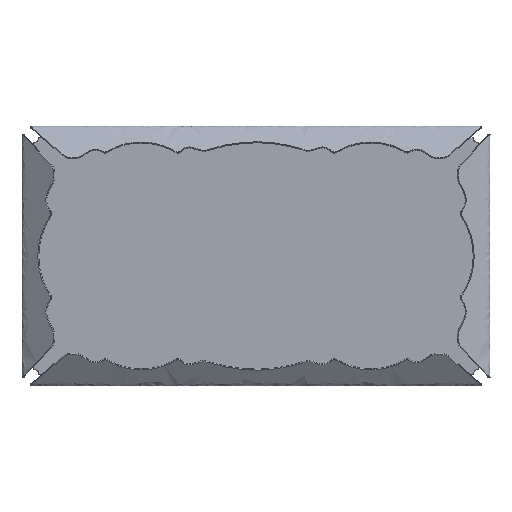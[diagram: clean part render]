
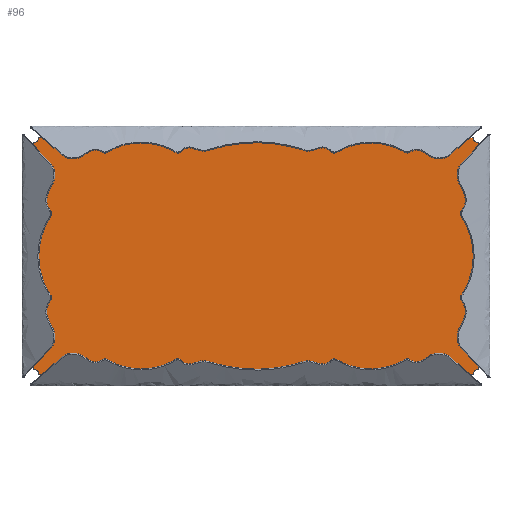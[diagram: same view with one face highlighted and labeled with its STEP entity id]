
A CAD part, top view. The second image highlights one B-rep face of the part: STEP entity #96.
In plain terms, the highlighted planar face has unit normal (0, 0, 1).
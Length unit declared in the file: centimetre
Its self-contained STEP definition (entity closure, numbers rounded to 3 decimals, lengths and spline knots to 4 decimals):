
#96=ADVANCED_FACE($,(#192),#1207,.T.);
#192=FACE_OUTER_BOUND($,#288,.T.);
#288=EDGE_LOOP($,(#456,#457));
#456=ORIENTED_EDGE($,*,*,#848,.T.);
#457=ORIENTED_EDGE($,*,*,#851,.T.);
#848=EDGE_CURVE($,#1053,#1055,#1225,.T.);
#851=EDGE_CURVE($,#1055,#1053,#1227,.T.);
#1053=VERTEX_POINT($,#1963);
#1055=VERTEX_POINT($,#1965);
#1207=PLANE($,#1531);
#1225=(
BOUNDED_CURVE()
B_SPLINE_CURVE(2,(#1839,#1840,#1841,#1842,#1843,#1844,#1845,#1846,#1847,
#1848,#1849,#1850,#1851,#1852,#1853,#1854,#1855),.UNSPECIFIED.,.F.,.F.)
B_SPLINE_CURVE_WITH_KNOTS((3,2,2,2,2,2,2,2,3),(231.1425,231.4367,
309.4567,309.7508,312.2177,312.5118,462.5318,
462.826,465.2928),.UNSPECIFIED.)
CURVE()
GEOMETRIC_REPRESENTATION_ITEM()
RATIONAL_B_SPLINE_CURVE((1.,0.742,1.,1.,1.,0.742,
1.,0.774,1.,0.742,1.,1.,1.,0.742,1.,
0.774,1.))
REPRESENTATION_ITEM($)
);
#1227=(
BOUNDED_CURVE()
B_SPLINE_CURVE(2,(#1875,#1876,#1877,#1878,#1879,#1880,#1881,#1882,#1883,
#1884,#1885,#1886,#1887,#1888,#1889,#1890,#1891),.UNSPECIFIED.,.F.,.F.)
B_SPLINE_CURVE_WITH_KNOTS((3,2,2,2,2,2,2,2,3),(465.2928,465.5869,
543.607,543.9011,546.3679,546.6621,696.6821,
696.9762,699.4431),.UNSPECIFIED.)
CURVE()
GEOMETRIC_REPRESENTATION_ITEM()
RATIONAL_B_SPLINE_CURVE((1.,0.742,1.,1.,1.,0.742,
1.,0.774,1.,0.742,1.,1.,1.,0.742,1.,
0.774,1.))
REPRESENTATION_ITEM($)
);
#1531=AXIS2_PLACEMENT_3D($,#1927,#1548,$);
#1548=DIRECTION($,(0.,0.,1.));
#1839=CARTESIAN_POINT($,(0.18,80.209,1.1));
#1840=CARTESIAN_POINT($,(0.,80.1909,1.1));
#1841=CARTESIAN_POINT($,(0.,80.01,1.1));
#1842=CARTESIAN_POINT($,(0.,41.,1.1));
#1843=CARTESIAN_POINT($,(0.,1.99,1.1));
#1844=CARTESIAN_POINT($,(0.,1.8091,1.1));
#1845=CARTESIAN_POINT($,(0.18,1.791,1.1));
#1846=CARTESIAN_POINT($,(1.6439,1.6439,1.1));
#1847=CARTESIAN_POINT($,(1.791,0.18,1.1));
#1848=CARTESIAN_POINT($,(1.8091,0.,1.1));
#1849=CARTESIAN_POINT($,(1.99,0.,1.1));
#1850=CARTESIAN_POINT($,(77.,0.,1.1));
#1851=CARTESIAN_POINT($,(152.01,0.,1.1));
#1852=CARTESIAN_POINT($,(152.1909,0.,1.1));
#1853=CARTESIAN_POINT($,(152.209,0.18,1.1));
#1854=CARTESIAN_POINT($,(152.3561,1.6439,1.1));
#1855=CARTESIAN_POINT($,(153.82,1.791,1.1));
#1875=CARTESIAN_POINT($,(153.82,1.791,1.1));
#1876=CARTESIAN_POINT($,(154.,1.8091,1.1));
#1877=CARTESIAN_POINT($,(154.,1.99,1.1));
#1878=CARTESIAN_POINT($,(154.,41.,1.1));
#1879=CARTESIAN_POINT($,(154.,80.01,1.1));
#1880=CARTESIAN_POINT($,(154.,80.1909,1.1));
#1881=CARTESIAN_POINT($,(153.82,80.209,1.1));
#1882=CARTESIAN_POINT($,(152.3561,80.3561,1.1));
#1883=CARTESIAN_POINT($,(152.209,81.82,1.1));
#1884=CARTESIAN_POINT($,(152.1909,82.,1.1));
#1885=CARTESIAN_POINT($,(152.01,82.,1.1));
#1886=CARTESIAN_POINT($,(77.,82.,1.1));
#1887=CARTESIAN_POINT($,(1.99,82.,1.1));
#1888=CARTESIAN_POINT($,(1.8091,82.,1.1));
#1889=CARTESIAN_POINT($,(1.791,81.82,1.1));
#1890=CARTESIAN_POINT($,(1.6439,80.3561,1.1));
#1891=CARTESIAN_POINT($,(0.18,80.209,1.1));
#1927=CARTESIAN_POINT($,(0.,0.,1.1));
#1963=CARTESIAN_POINT($,(0.18,80.209,1.1));
#1965=CARTESIAN_POINT($,(153.82,1.791,1.1));
